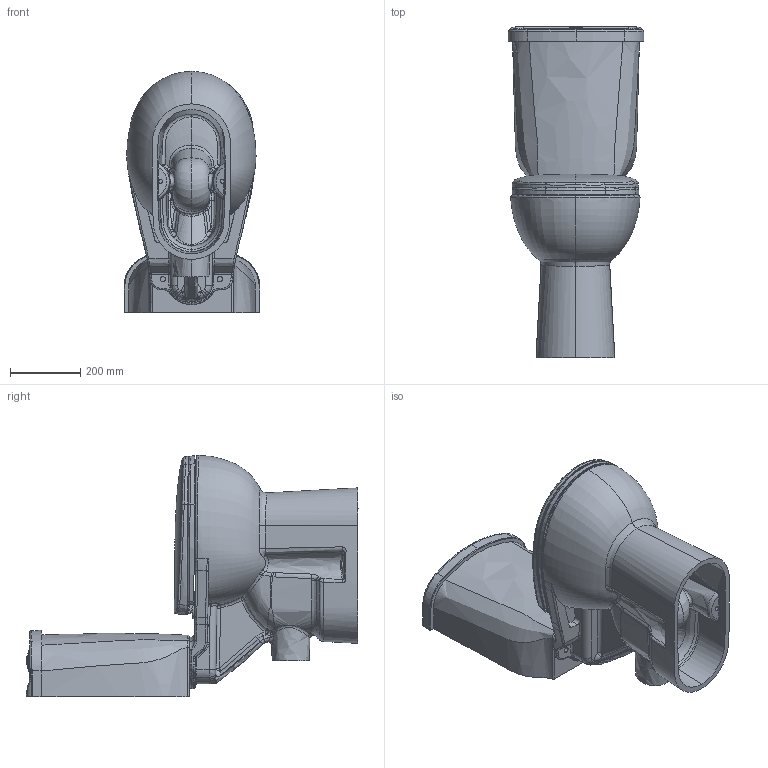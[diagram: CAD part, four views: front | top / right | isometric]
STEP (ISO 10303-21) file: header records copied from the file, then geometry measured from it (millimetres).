
FILE_DESCRIPTION (( 'STEP AP203' ), '1' );
FILE_NAME ('BD315-00CB00E-0000+SD410-00CB00E-0000-.STEP', '2023-06-05T11:59:01', ( '' ), ( '' ), 'SwSTEP 2.0', 'SolidWorks 2023', '' );
FILE_SCHEMA (( 'CONFIG_CONTROL_DESIGN' ));
Products named in the file (1): BD315-00CB00E-0000+SD410-00CB00E-0000-
Bounding box: 385.93 x 942.86 x 684.95 mm (x, y, z)
Volume: 23583359.4 mm3; surface area: 3125018.6 mm2
Topology: 19 solids, 19 shells, 2127 faces, 5582 edges, 3485 vertices
Faces by surface type: bspline 1248, plane 458, cylinder 248, cone 86, torus 61, sphere 26
Entity records: 411775 total; most frequent: CARTESIAN_POINT 371277, ORIENTED_EDGE 11048, EDGE_CURVE 5524, DIRECTION 4863, VERTEX_POINT 3485, B_SPLINE_CURVE_WITH_KNOTS 2905, EDGE_LOOP 2207, ADVANCED_FACE 2127
